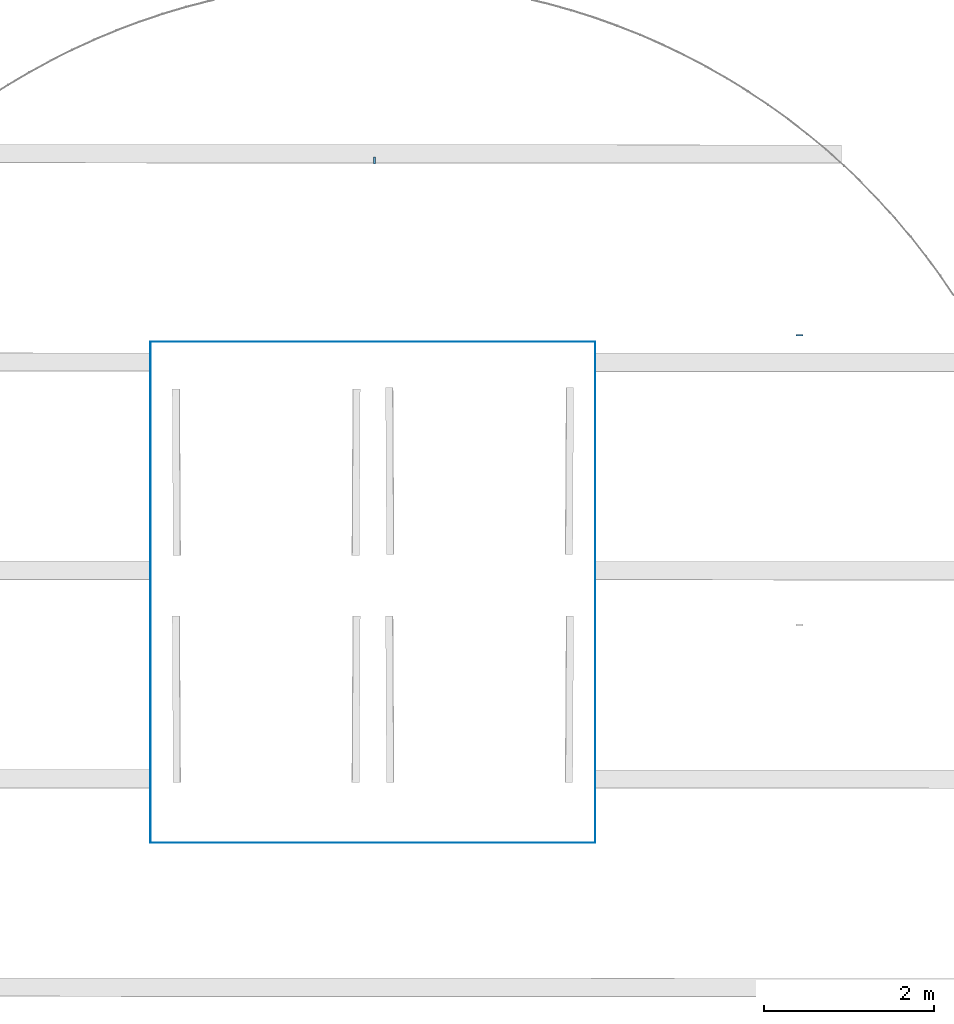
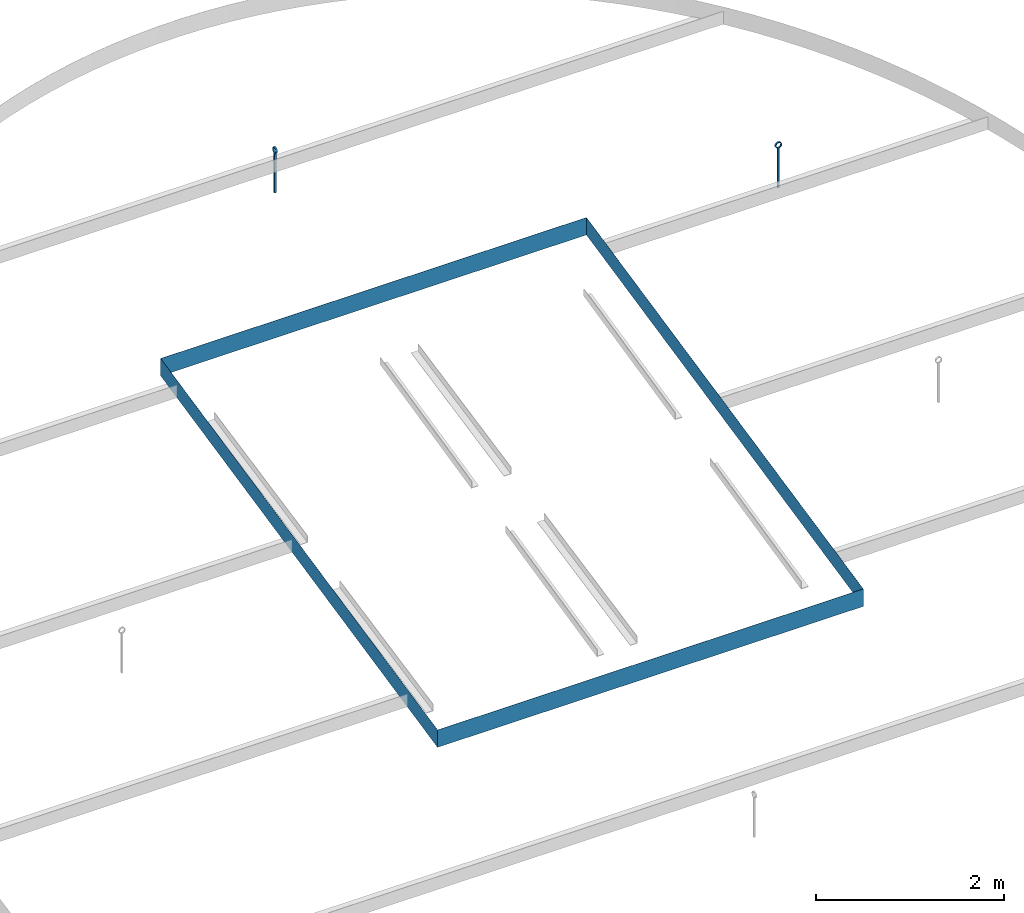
# One storey, part 3 of 7: 2 beams, 1 slab.
"""IFC4 building model written with IfcOpenShell, lengths in millimetres."""

from ifc_helpers import new_model, entity, si_unit, converted_unit, derived_unit, direction, frame, origin_with_axes, place, context, subcontext, project, spatial, line, arc, indexed_curve, outline, composite_profile, extrude, material, layer, layer_set, layer_usage, material_profile, profile_set, type_object, element, save


model = new_model("IFC4")

# Units and contexts
model_context = context("Model", 3, precision=0.01, world=origin_with_axes(), true_north=direction((0.0, 1.0)))
body_context = subcontext(model_context, "Body", "Model", "MODEL_VIEW")
ifc_project = project(units=[si_unit("LENGTHUNIT", "METRE", prefix="MILLI"), si_unit("AREAUNIT", "SQUARE_METRE"), si_unit("VOLUMEUNIT", "CUBIC_METRE"), converted_unit("PLANEANGLEUNIT", "DEGREE", entity("IfcPlaneAngleMeasure", 0.0174532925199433), si_unit("PLANEANGLEUNIT", "RADIAN"), dimensions=[0, 0, 0, 0, 0, 0, 0]), converted_unit("TIMEUNIT", "Year", entity("IfcTimeMeasure", 31557600.0), si_unit("TIMEUNIT", "SECOND"), dimensions=[0, 0, 1, 0, 0, 0, 0]), si_unit("MASSUNIT", "GRAM", prefix="KILO"), si_unit("THERMODYNAMICTEMPERATUREUNIT", "DEGREE_CELSIUS"), si_unit("LUMINOUSINTENSITYUNIT", "LUMEN"), si_unit("ENERGYUNIT", "JOULE", prefix="MEGA"), derived_unit("THERMALCONDUCTANCEUNIT", [(si_unit("POWERUNIT", "WATT"), 1), (si_unit("LENGTHUNIT", "METRE"), -1), (si_unit("THERMODYNAMICTEMPERATUREUNIT", "KELVIN"), -1)]), derived_unit("SPECIFICHEATCAPACITYUNIT", [(si_unit("ENERGYUNIT", "JOULE"), 1), (si_unit("MASSUNIT", "GRAM", prefix="KILO"), -1), (si_unit("THERMODYNAMICTEMPERATUREUNIT", "KELVIN"), -1)]), derived_unit("MASSDENSITYUNIT", [(si_unit("MASSUNIT", "GRAM", prefix="KILO"), 1), (si_unit("VOLUMEUNIT", "CUBIC_METRE"), -1)])], contexts=[model_context])

# Site, building, storey
site_placement = place(None, origin_with_axes())
site = spatial("IfcSite", under=ifc_project, at=site_placement, Name="Exteriér", CompositionType="ELEMENT")
building_placement = place(site_placement, origin_with_axes())
building = spatial("IfcBuilding", under=site, at=building_placement, Name="Univerzitní lezecké centrum", CompositionType="ELEMENT")
storey_placement = place(building_placement, frame((0.0, 0.0, 12800.0), z_axis=(0.0, 0.0, 1.0), x_axis=(1.0, 0.0, 0.0)))
storey = spatial("IfcBuildingStorey", under=building, at=storey_placement, Name="Střecha", CompositionType="ELEMENT", Elevation=12800.0)

# Beams
ifc_material_1 = material(Name="Ocel - nerez")
ifc_material_profile_1 = material_profile(ifc_material_1, outline(indexed_curve([(-10.0, 0.0), (9.999999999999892, 0.0), (9.999999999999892, 511.2701665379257), (5.04017169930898, 510.3188121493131), (0.0, 509.9999999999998), (-5.040171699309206, 510.3188121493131), (-10.0, 511.2701665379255)], segments=[line(1, 2, 3), arc(3, 4, 5), arc(5, 6, 7), line(7, 1)])), Name="Ocel - nerez 1")
ifc_material_profile_2 = material_profile(ifc_material_1, outline(indexed_curve([(0.0, 589.9999999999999), (-28.28427124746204, 578.2842712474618), (-40.00000000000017, 549.9999999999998), (-31.6227766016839, 525.505102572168), (-10.0, 511.2701665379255), (-5.040171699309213, 510.3188121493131), (0.0, 509.9999999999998), (5.040171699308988, 510.3188121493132), (9.999999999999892, 511.2701665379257), (31.62277660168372, 525.5051025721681), (39.99999999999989, 549.9999999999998), (28.28427124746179, 578.2842712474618), (-30.0000000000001, 549.9999999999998), (-21.21320343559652, 571.2132034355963), (0.0, 579.9999999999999), (21.21320343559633, 571.2132034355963), (29.99999999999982, 549.9999999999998), (21.21320343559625, 528.7867965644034), (0.0, 519.9999999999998), (-21.2132034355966, 528.7867965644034)], segments=[arc(1, 2, 3), arc(3, 4, 5), arc(5, 6, 7), arc(7, 8, 9), arc(9, 10, 11), arc(11, 12, 1)]), holes=[indexed_curve([(0.0, 589.9999999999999), (-28.28427124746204, 578.2842712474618), (-40.00000000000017, 549.9999999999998), (-31.6227766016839, 525.505102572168), (-10.0, 511.2701665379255), (-5.040171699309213, 510.3188121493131), (0.0, 509.9999999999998), (5.040171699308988, 510.3188121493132), (9.999999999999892, 511.2701665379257), (31.62277660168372, 525.5051025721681), (39.99999999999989, 549.9999999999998), (28.28427124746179, 578.2842712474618), (-30.0000000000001, 549.9999999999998), (-21.21320343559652, 571.2132034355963), (0.0, 579.9999999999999), (21.21320343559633, 571.2132034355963), (29.99999999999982, 549.9999999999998), (21.21320343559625, 528.7867965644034), (0.0, 519.9999999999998), (-21.2132034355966, 528.7867965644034)], segments=[arc(13, 14, 15), arc(15, 16, 17), arc(17, 18, 19), arc(19, 20, 13)])]), Name="Ocel - nerez 2")
ifc_profile_set = profile_set([ifc_material_profile_1, ifc_material_profile_2], Name="Kotvící bod záchytného systému", composite=composite_profile([outline(indexed_curve([(-10.0, 0.0), (9.999999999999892, 0.0), (9.999999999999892, 511.2701665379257), (5.04017169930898, 510.3188121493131), (0.0, 509.9999999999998), (-5.040171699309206, 510.3188121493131), (-10.0, 511.2701665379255)], segments=[line(1, 2, 3), arc(3, 4, 5), arc(5, 6, 7), line(7, 1)])), outline(indexed_curve([(0.0, 589.9999999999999), (-28.28427124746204, 578.2842712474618), (-40.00000000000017, 549.9999999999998), (-31.6227766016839, 525.505102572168), (-10.0, 511.2701665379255), (-5.040171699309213, 510.3188121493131), (0.0, 509.9999999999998), (5.040171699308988, 510.3188121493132), (9.999999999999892, 511.2701665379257), (31.62277660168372, 525.5051025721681), (39.99999999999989, 549.9999999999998), (28.28427124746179, 578.2842712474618), (-30.0000000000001, 549.9999999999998), (-21.21320343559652, 571.2132034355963), (0.0, 579.9999999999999), (21.21320343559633, 571.2132034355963), (29.99999999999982, 549.9999999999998), (21.21320343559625, 528.7867965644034), (0.0, 519.9999999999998), (-21.2132034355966, 528.7867965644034)], segments=[arc(1, 2, 3), arc(3, 4, 5), arc(5, 6, 7), arc(7, 8, 9), arc(9, 10, 11), arc(11, 12, 1)]), holes=[indexed_curve([(0.0, 589.9999999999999), (-28.28427124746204, 578.2842712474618), (-40.00000000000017, 549.9999999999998), (-31.6227766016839, 525.505102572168), (-10.0, 511.2701665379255), (-5.040171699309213, 510.3188121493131), (0.0, 509.9999999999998), (5.040171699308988, 510.3188121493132), (9.999999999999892, 511.2701665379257), (31.62277660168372, 525.5051025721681), (39.99999999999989, 549.9999999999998), (28.28427124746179, 578.2842712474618), (-30.0000000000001, 549.9999999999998), (-21.21320343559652, 571.2132034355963), (0.0, 579.9999999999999), (21.21320343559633, 571.2132034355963), (29.99999999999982, 549.9999999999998), (21.21320343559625, 528.7867965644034), (0.0, 519.9999999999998), (-21.2132034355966, 528.7867965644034)], segments=[arc(13, 14, 15), arc(15, 16, 17), arc(17, 18, 19), arc(19, 20, 13)])])]))
beam_type = type_object("IfcBeamType", Name="Kotvící bod záchytného systému 80 x 590", PredefinedType="BEAM")
beam_1_placement = place(storey_placement, frame((2459.463059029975, 14449.65688526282, 2889.024687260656), z_axis=(0.0, 0.0, 1.0), x_axis=(-0.001281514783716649, -0.9999991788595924, 0.0)))
element("IfcBeam", 1, at=beam_1_placement, inside=storey, type_object=beam_type, material=ifc_profile_set, Name="OV27", PredefinedType="BEAM", context=body_context, shape_type="SweptSolid", body=[
    extrude(composite_profile([outline(indexed_curve([(-10.0, 0.0), (9.999999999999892, 0.0), (9.999999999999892, 511.2701665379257), (5.04017169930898, 510.3188121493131), (0.0, 509.9999999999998), (-5.040171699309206, 510.3188121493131), (-10.0, 511.2701665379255)], segments=[line(1, 2, 3), arc(3, 4, 5), arc(5, 6, 7), line(7, 1)])), outline(indexed_curve([(0.0, 589.9999999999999), (-28.28427124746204, 578.2842712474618), (-40.00000000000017, 549.9999999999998), (-31.6227766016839, 525.505102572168), (-10.0, 511.2701665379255), (-5.040171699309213, 510.3188121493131), (0.0, 509.9999999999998), (5.040171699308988, 510.3188121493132), (9.999999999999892, 511.2701665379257), (31.62277660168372, 525.5051025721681), (39.99999999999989, 549.9999999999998), (28.28427124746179, 578.2842712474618), (-30.0000000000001, 549.9999999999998), (-21.21320343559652, 571.2132034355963), (0.0, 579.9999999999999), (21.21320343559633, 571.2132034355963), (29.99999999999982, 549.9999999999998), (21.21320343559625, 528.7867965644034), (0.0, 519.9999999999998), (-21.2132034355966, 528.7867965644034)], segments=[arc(1, 2, 3), arc(3, 4, 5), arc(5, 6, 7), arc(7, 8, 9), arc(9, 10, 11), arc(11, 12, 1)]), holes=[indexed_curve([(0.0, 589.9999999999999), (-28.28427124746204, 578.2842712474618), (-40.00000000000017, 549.9999999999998), (-31.6227766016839, 525.505102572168), (-10.0, 511.2701665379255), (-5.040171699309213, 510.3188121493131), (0.0, 509.9999999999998), (5.040171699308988, 510.3188121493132), (9.999999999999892, 511.2701665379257), (31.62277660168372, 525.5051025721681), (39.99999999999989, 549.9999999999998), (28.28427124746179, 578.2842712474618), (-30.0000000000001, 549.9999999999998), (-21.21320343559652, 571.2132034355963), (0.0, 579.9999999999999), (21.21320343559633, 571.2132034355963), (29.99999999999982, 549.9999999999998), (21.21320343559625, 528.7867965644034), (0.0, 519.9999999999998), (-21.2132034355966, 528.7867965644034)], segments=[arc(13, 14, 15), arc(15, 16, 17), arc(17, 18, 19), arc(19, 20, 13)])])]), frame((0.0, 19.99999999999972, 0.0), z_axis=(0.0, -1.0, 0.0), x_axis=(1.0, 0.0, 0.0)), (0.0, 0.0, 1.0), 19.99999999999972),
])
beam_2_placement = place(storey_placement, frame((7455.575287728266, 12409.66663617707, 2453.0), z_axis=(0.0, 0.0, 1.0), x_axis=(-1.0, 0.0, 0.0)))
element("IfcBeam", 2, at=beam_2_placement, inside=storey, type_object=beam_type, material=ifc_profile_set, Name="OV27", PredefinedType="BEAM", context=body_context, shape_type="SweptSolid", body=[
    extrude(composite_profile([outline(indexed_curve([(-10.0, 0.0), (9.999999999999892, 0.0), (9.999999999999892, 511.2701665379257), (5.04017169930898, 510.3188121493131), (0.0, 509.9999999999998), (-5.040171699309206, 510.3188121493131), (-10.0, 511.2701665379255)], segments=[line(1, 2, 3), arc(3, 4, 5), arc(5, 6, 7), line(7, 1)])), outline(indexed_curve([(0.0, 589.9999999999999), (-28.28427124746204, 578.2842712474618), (-40.00000000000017, 549.9999999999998), (-31.6227766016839, 525.505102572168), (-10.0, 511.2701665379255), (-5.040171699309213, 510.3188121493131), (0.0, 509.9999999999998), (5.040171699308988, 510.3188121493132), (9.999999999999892, 511.2701665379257), (31.62277660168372, 525.5051025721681), (39.99999999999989, 549.9999999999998), (28.28427124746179, 578.2842712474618), (-30.0000000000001, 549.9999999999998), (-21.21320343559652, 571.2132034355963), (0.0, 579.9999999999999), (21.21320343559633, 571.2132034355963), (29.99999999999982, 549.9999999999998), (21.21320343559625, 528.7867965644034), (0.0, 519.9999999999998), (-21.2132034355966, 528.7867965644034)], segments=[arc(1, 2, 3), arc(3, 4, 5), arc(5, 6, 7), arc(7, 8, 9), arc(9, 10, 11), arc(11, 12, 1)]), holes=[indexed_curve([(0.0, 589.9999999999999), (-28.28427124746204, 578.2842712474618), (-40.00000000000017, 549.9999999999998), (-31.6227766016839, 525.505102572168), (-10.0, 511.2701665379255), (-5.040171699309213, 510.3188121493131), (0.0, 509.9999999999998), (5.040171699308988, 510.3188121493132), (9.999999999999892, 511.2701665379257), (31.62277660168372, 525.5051025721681), (39.99999999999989, 549.9999999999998), (28.28427124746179, 578.2842712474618), (-30.0000000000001, 549.9999999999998), (-21.21320343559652, 571.2132034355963), (0.0, 579.9999999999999), (21.21320343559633, 571.2132034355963), (29.99999999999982, 549.9999999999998), (21.21320343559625, 528.7867965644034), (0.0, 519.9999999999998), (-21.2132034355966, 528.7867965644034)], segments=[arc(13, 14, 15), arc(15, 16, 17), arc(17, 18, 19), arc(19, 20, 13)])])]), frame((0.0, 19.99999999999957, 0.0), z_axis=(0.0, 1.0, 0.0), x_axis=(-1.0, 0.0, 0.0)), (0.0, 0.0, -1.0), 19.99999999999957),
])

# Slab
ifc_material_2 = material(Name="Hliníková kačírková lišta")
ifc_layer = layer(ifc_material_2, 220.0832101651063, ventilated="UNKNOWN", Name="Hliníková kačírková lišta")
ifc_layer_set = layer_set([ifc_layer], Name="Hliníková kačírková lišta 220.083")
ifc_layer_usage = layer_usage(ifc_layer_set, "AXIS3", "NEGATIVE", 220.0832101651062)
slab_type = type_object("IfcSlabType", Name="Hliníková kačírková lišta 220", PredefinedType="ROOF")
slab_placement = place(storey_placement, frame((-50.1484019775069, 6529.540565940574, 1492.62332567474), z_axis=(0.0, 0.0, 1.0), x_axis=(1.0, 0.0, 0.0)))
element("IfcSlab", 3, at=slab_placement, inside=storey, type_object=slab_type, material=ifc_layer_usage, Name="ZV06", PredefinedType="ROOF", context=body_context, shape_type="SweptSolid", body=[
    extrude(outline(indexed_curve([(-110.0, -87.91330001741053), (5109.850842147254, -87.91330001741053), (5109.850842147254, 5923.471846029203), (-110.0, 5923.471846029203), (-108.0000000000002, 5921.427164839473), (5107.850842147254, 5921.427164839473), (5107.850842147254, -85.84617058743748), (-108.0000000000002, -85.84617058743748)], segments=[line(1, 2, 3, 4, 1)]), holes=[indexed_curve([(-110.0, -87.91330001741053), (5109.850842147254, -87.91330001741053), (5109.850842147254, 5923.471846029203), (-110.0, 5923.471846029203), (-108.0000000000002, 5921.427164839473), (5107.850842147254, 5921.427164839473), (5107.850842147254, -85.84617058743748), (-108.0000000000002, -85.84617058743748)], segments=[line(5, 6, 7, 8, 5)])]), frame((0.0, 0.0, 0.0), z_axis=(0.0, -0.2079116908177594, 0.9781476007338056), x_axis=(1.0, 0.0, 0.0)), (0.0, 0.2079116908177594, 0.9781476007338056), 225.0),
])

save(model, "model.ifc")
